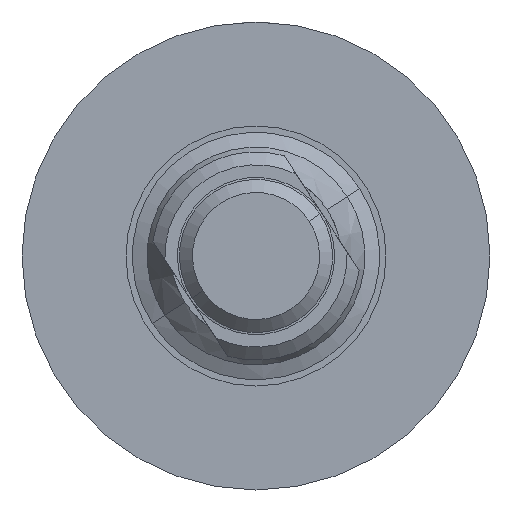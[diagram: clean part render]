
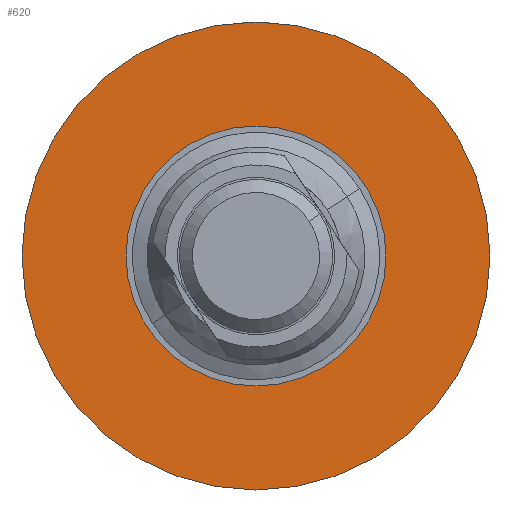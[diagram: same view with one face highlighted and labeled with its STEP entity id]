
A CAD part, front view. The second image highlights one B-rep face of the part: STEP entity #620.
In plain terms, the highlighted planar face has unit normal (0, -1, 0).
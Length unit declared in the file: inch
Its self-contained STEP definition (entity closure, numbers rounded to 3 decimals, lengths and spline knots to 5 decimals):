
#24 = CARTESIAN_POINT ( 'NONE',  ( 1.0178, 0.10213, 0.72583 ) ) ;
#26 = CARTESIAN_POINT ( 'NONE',  ( 0.7053, 0.10213, 0.72583 ) ) ;
#67 = DIRECTION ( 'NONE',  ( 0., -1., 0. ) ) ;
#145 = EDGE_CURVE ( 'NONE', #2370, #2655, #1689, .T. ) ;
#235 = AXIS2_PLACEMENT_3D ( 'NONE', #2392, #1187, #2579 ) ;
#265 = DIRECTION ( 'NONE',  ( 0., 0., -1. ) ) ;
#275 = DIRECTION ( 'NONE',  ( 0., 0., -1. ) ) ;
#394 = AXIS2_PLACEMENT_3D ( 'NONE', #24, #482, #275 ) ;
#475 = CIRCLE ( 'NONE', #939, 0.5625 ) ;
#482 = DIRECTION ( 'NONE',  ( 0., -1., 0. ) ) ;
#484 = CARTESIAN_POINT ( 'NONE',  ( 0.7053, 0.10213, 1.03833 ) ) ;
#504 = PLANE ( 'NONE',  #394 ) ;
#507 = ORIENTED_EDGE ( 'NONE', *, *, #678, .T. ) ;
#620 = ADVANCED_FACE ( 'NONE', ( #2005, #2486 ), #504, .T. ) ;
#622 = VERTEX_POINT ( 'NONE', #919 ) ;
#670 = CARTESIAN_POINT ( 'NONE',  ( 0.7053, 0.10213, 0.72583 ) ) ;
#678 = EDGE_CURVE ( 'NONE', #1433, #622, #1300, .T. ) ;
#797 = EDGE_LOOP ( 'NONE', ( #507, #2102 ) ) ;
#860 = DIRECTION ( 'NONE',  ( 0., 0., -1. ) ) ;
#919 = CARTESIAN_POINT ( 'NONE',  ( 0.7053, 0.10213, 1.28833 ) ) ;
#939 = AXIS2_PLACEMENT_3D ( 'NONE', #26, #1510, #265 ) ;
#1187 = DIRECTION ( 'NONE',  ( 0., -1., 0. ) ) ;
#1224 = CARTESIAN_POINT ( 'NONE',  ( 0.7053, 0.10213, 0.16333 ) ) ;
#1300 = CIRCLE ( 'NONE', #235, 0.5625 ) ;
#1346 = CARTESIAN_POINT ( 'NONE',  ( 0.7053, 0.10213, 0.72583 ) ) ;
#1433 = VERTEX_POINT ( 'NONE', #1224 ) ;
#1480 = DIRECTION ( 'NONE',  ( 0., -1., 0. ) ) ;
#1510 = DIRECTION ( 'NONE',  ( 0., -1., 0. ) ) ;
#1540 = DIRECTION ( 'NONE',  ( 0., 0., -1. ) ) ;
#1681 = AXIS2_PLACEMENT_3D ( 'NONE', #670, #1480, #860 ) ;
#1689 = CIRCLE ( 'NONE', #1681, 0.3125 ) ;
#2005 = FACE_OUTER_BOUND ( 'NONE', #797, .T. ) ;
#2036 = ORIENTED_EDGE ( 'NONE', *, *, #145, .F. ) ;
#2042 = CIRCLE ( 'NONE', #2451, 0.3125 ) ;
#2077 = EDGE_CURVE ( 'NONE', #2655, #2370, #2042, .T. ) ;
#2102 = ORIENTED_EDGE ( 'NONE', *, *, #2373, .T. ) ;
#2306 = ORIENTED_EDGE ( 'NONE', *, *, #2077, .F. ) ;
#2318 = CARTESIAN_POINT ( 'NONE',  ( 0.7053, 0.10213, 0.41333 ) ) ;
#2370 = VERTEX_POINT ( 'NONE', #484 ) ;
#2373 = EDGE_CURVE ( 'NONE', #622, #1433, #475, .T. ) ;
#2392 = CARTESIAN_POINT ( 'NONE',  ( 0.7053, 0.10213, 0.72583 ) ) ;
#2451 = AXIS2_PLACEMENT_3D ( 'NONE', #1346, #67, #1540 ) ;
#2486 = FACE_BOUND ( 'NONE', #2670, .T. ) ;
#2579 = DIRECTION ( 'NONE',  ( 0., 0., -1. ) ) ;
#2655 = VERTEX_POINT ( 'NONE', #2318 ) ;
#2670 = EDGE_LOOP ( 'NONE', ( #2306, #2036 ) ) ;
